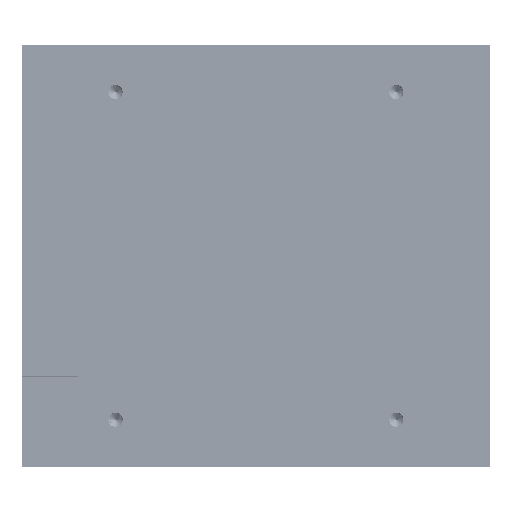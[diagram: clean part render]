
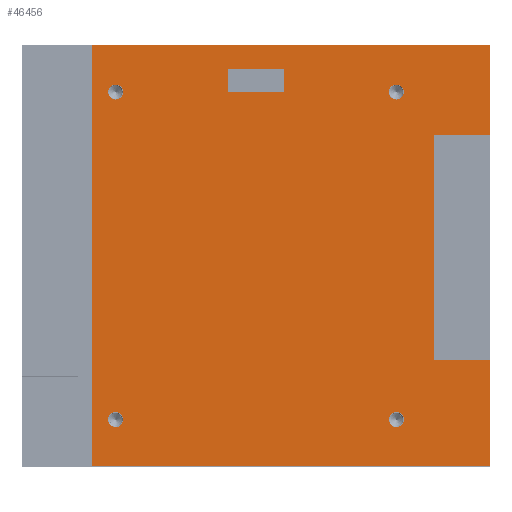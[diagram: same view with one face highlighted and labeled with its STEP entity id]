
A CAD part, top view. The second image highlights one B-rep face of the part: STEP entity #46456.
In plain terms, the highlighted planar face has unit normal (0, 0, 1).
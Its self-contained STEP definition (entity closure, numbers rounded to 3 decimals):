
#46266 = VERTEX_POINT('',#46267);
#46267 = CARTESIAN_POINT('',(0.,0.,1.6));
#46273 = EDGE_CURVE('',#46266,#46274,#46276,.T.);
#46274 = VERTEX_POINT('',#46275);
#46275 = CARTESIAN_POINT('',(85.,0.,1.6));
#46276 = LINE('',#46277,#46278);
#46277 = CARTESIAN_POINT('',(0.,0.,1.6));
#46278 = VECTOR('',#46279,1.);
#46279 = DIRECTION('',(1.,0.,0.));
#46306 = VERTEX_POINT('',#46307);
#46307 = CARTESIAN_POINT('',(0.,90.,1.6));
#46313 = EDGE_CURVE('',#46306,#46266,#46314,.T.);
#46314 = LINE('',#46315,#46316);
#46315 = CARTESIAN_POINT('',(0.,90.,1.6));
#46316 = VECTOR('',#46317,1.);
#46317 = DIRECTION('',(0.,-1.,0.));
#46335 = EDGE_CURVE('',#46274,#46336,#46338,.T.);
#46336 = VERTEX_POINT('',#46337);
#46337 = CARTESIAN_POINT('',(85.,90.,1.6));
#46338 = LINE('',#46339,#46340);
#46339 = CARTESIAN_POINT('',(85.,0.,1.6));
#46340 = VECTOR('',#46341,1.);
#46341 = DIRECTION('',(0.,1.,0.));
#46456 = ADVANCED_FACE('',(#46457,#46468,#46479,#46513,#46547,#46558,
    #46569),#46580,.T.);
#46457 = FACE_BOUND('',#46458,.T.);
#46458 = EDGE_LOOP('',(#46459,#46460,#46461,#46467));
#46459 = ORIENTED_EDGE('',*,*,#46273,.T.);
#46460 = ORIENTED_EDGE('',*,*,#46335,.T.);
#46461 = ORIENTED_EDGE('',*,*,#46462,.T.);
#46462 = EDGE_CURVE('',#46336,#46306,#46463,.T.);
#46463 = LINE('',#46464,#46465);
#46464 = CARTESIAN_POINT('',(85.,90.,1.6));
#46465 = VECTOR('',#46466,1.);
#46466 = DIRECTION('',(-1.,0.,0.));
#46467 = ORIENTED_EDGE('',*,*,#46313,.T.);
#46468 = FACE_BOUND('',#46469,.T.);
#46469 = EDGE_LOOP('',(#46470));
#46470 = ORIENTED_EDGE('',*,*,#46471,.F.);
#46471 = EDGE_CURVE('',#46472,#46472,#46474,.T.);
#46472 = VERTEX_POINT('',#46473);
#46473 = CARTESIAN_POINT('',(21.6,10.,1.6));
#46474 = CIRCLE('',#46475,1.6);
#46475 = AXIS2_PLACEMENT_3D('',#46476,#46477,#46478);
#46476 = CARTESIAN_POINT('',(20.,10.,1.6));
#46477 = DIRECTION('',(0.,0.,1.));
#46478 = DIRECTION('',(1.,0.,0.));
#46479 = FACE_BOUND('',#46480,.T.);
#46480 = EDGE_LOOP('',(#46481,#46491,#46499,#46507));
#46481 = ORIENTED_EDGE('',*,*,#46482,.T.);
#46482 = EDGE_CURVE('',#46483,#46485,#46487,.T.);
#46483 = VERTEX_POINT('',#46484);
#46484 = CARTESIAN_POINT('',(12.02,67.231,1.6));
#46485 = VERTEX_POINT('',#46486);
#46486 = CARTESIAN_POINT('',(12.02,19.231,1.6));
#46487 = LINE('',#46488,#46489);
#46488 = CARTESIAN_POINT('',(12.02,67.231,1.6));
#46489 = VECTOR('',#46490,1.);
#46490 = DIRECTION('',(0.,-1.,0.));
#46491 = ORIENTED_EDGE('',*,*,#46492,.T.);
#46492 = EDGE_CURVE('',#46485,#46493,#46495,.T.);
#46493 = VERTEX_POINT('',#46494);
#46494 = CARTESIAN_POINT('',(0.02,19.231,1.6));
#46495 = LINE('',#46496,#46497);
#46496 = CARTESIAN_POINT('',(12.02,19.231,1.6));
#46497 = VECTOR('',#46498,1.);
#46498 = DIRECTION('',(-1.,0.,0.));
#46499 = ORIENTED_EDGE('',*,*,#46500,.T.);
#46500 = EDGE_CURVE('',#46493,#46501,#46503,.T.);
#46501 = VERTEX_POINT('',#46502);
#46502 = CARTESIAN_POINT('',(0.02,67.231,1.6));
#46503 = LINE('',#46504,#46505);
#46504 = CARTESIAN_POINT('',(0.02,19.231,1.6));
#46505 = VECTOR('',#46506,1.);
#46506 = DIRECTION('',(0.,1.,0.));
#46507 = ORIENTED_EDGE('',*,*,#46508,.T.);
#46508 = EDGE_CURVE('',#46501,#46483,#46509,.T.);
#46509 = LINE('',#46510,#46511);
#46510 = CARTESIAN_POINT('',(0.02,67.231,1.6));
#46511 = VECTOR('',#46512,1.);
#46512 = DIRECTION('',(1.,0.,0.));
#46513 = FACE_BOUND('',#46514,.T.);
#46514 = EDGE_LOOP('',(#46515,#46525,#46533,#46541));
#46515 = ORIENTED_EDGE('',*,*,#46516,.T.);
#46516 = EDGE_CURVE('',#46517,#46519,#46521,.T.);
#46517 = VERTEX_POINT('',#46518);
#46518 = CARTESIAN_POINT('',(44.,5.,1.6));
#46519 = VERTEX_POINT('',#46520);
#46520 = CARTESIAN_POINT('',(44.,10.,1.6));
#46521 = LINE('',#46522,#46523);
#46522 = CARTESIAN_POINT('',(44.,5.,1.6));
#46523 = VECTOR('',#46524,1.);
#46524 = DIRECTION('',(0.,1.,0.));
#46525 = ORIENTED_EDGE('',*,*,#46526,.T.);
#46526 = EDGE_CURVE('',#46519,#46527,#46529,.T.);
#46527 = VERTEX_POINT('',#46528);
#46528 = CARTESIAN_POINT('',(56.,10.,1.6));
#46529 = LINE('',#46530,#46531);
#46530 = CARTESIAN_POINT('',(44.,10.,1.6));
#46531 = VECTOR('',#46532,1.);
#46532 = DIRECTION('',(1.,0.,0.));
#46533 = ORIENTED_EDGE('',*,*,#46534,.T.);
#46534 = EDGE_CURVE('',#46527,#46535,#46537,.T.);
#46535 = VERTEX_POINT('',#46536);
#46536 = CARTESIAN_POINT('',(56.,5.,1.6));
#46537 = LINE('',#46538,#46539);
#46538 = CARTESIAN_POINT('',(56.,10.,1.6));
#46539 = VECTOR('',#46540,1.);
#46540 = DIRECTION('',(0.,-1.,0.));
#46541 = ORIENTED_EDGE('',*,*,#46542,.T.);
#46542 = EDGE_CURVE('',#46535,#46517,#46543,.T.);
#46543 = LINE('',#46544,#46545);
#46544 = CARTESIAN_POINT('',(56.,5.,1.6));
#46545 = VECTOR('',#46546,1.);
#46546 = DIRECTION('',(-1.,0.,0.));
#46547 = FACE_BOUND('',#46548,.T.);
#46548 = EDGE_LOOP('',(#46549));
#46549 = ORIENTED_EDGE('',*,*,#46550,.F.);
#46550 = EDGE_CURVE('',#46551,#46551,#46553,.T.);
#46551 = VERTEX_POINT('',#46552);
#46552 = CARTESIAN_POINT('',(81.6,10.,1.6));
#46553 = CIRCLE('',#46554,1.6);
#46554 = AXIS2_PLACEMENT_3D('',#46555,#46556,#46557);
#46555 = CARTESIAN_POINT('',(80.,10.,1.6));
#46556 = DIRECTION('',(0.,0.,1.));
#46557 = DIRECTION('',(1.,0.,0.));
#46558 = FACE_BOUND('',#46559,.T.);
#46559 = EDGE_LOOP('',(#46560));
#46560 = ORIENTED_EDGE('',*,*,#46561,.F.);
#46561 = EDGE_CURVE('',#46562,#46562,#46564,.T.);
#46562 = VERTEX_POINT('',#46563);
#46563 = CARTESIAN_POINT('',(21.6,80.,1.6));
#46564 = CIRCLE('',#46565,1.6);
#46565 = AXIS2_PLACEMENT_3D('',#46566,#46567,#46568);
#46566 = CARTESIAN_POINT('',(20.,80.,1.6));
#46567 = DIRECTION('',(0.,0.,1.));
#46568 = DIRECTION('',(1.,0.,0.));
#46569 = FACE_BOUND('',#46570,.T.);
#46570 = EDGE_LOOP('',(#46571));
#46571 = ORIENTED_EDGE('',*,*,#46572,.F.);
#46572 = EDGE_CURVE('',#46573,#46573,#46575,.T.);
#46573 = VERTEX_POINT('',#46574);
#46574 = CARTESIAN_POINT('',(81.6,80.,1.6));
#46575 = CIRCLE('',#46576,1.6);
#46576 = AXIS2_PLACEMENT_3D('',#46577,#46578,#46579);
#46577 = CARTESIAN_POINT('',(80.,80.,1.6));
#46578 = DIRECTION('',(0.,0.,1.));
#46579 = DIRECTION('',(1.,0.,0.));
#46580 = PLANE('',#46581);
#46581 = AXIS2_PLACEMENT_3D('',#46582,#46583,#46584);
#46582 = CARTESIAN_POINT('',(42.5,45.,1.6));
#46583 = DIRECTION('',(0.,0.,1.));
#46584 = DIRECTION('',(1.,0.,0.));
